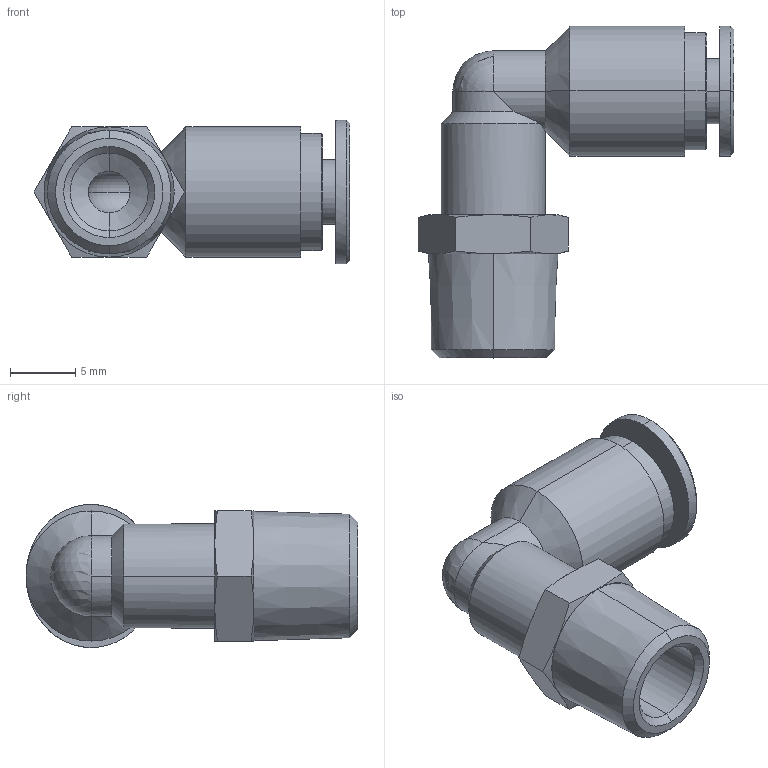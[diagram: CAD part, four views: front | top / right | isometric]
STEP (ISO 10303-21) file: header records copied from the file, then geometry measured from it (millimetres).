
FILE_DESCRIPTION (( 'STEP AP214' ), '1' );
FILE_NAME ('APL4-01.STEP', '2019-11-22T02:21:37', ( '微软用户' ), ( '微软中国' ), 'SwSTEP 2.0', 'SolidWorks 2016', '' );
FILE_SCHEMA (( 'AUTOMOTIVE_DESIGN' ));
Length unit declared in the file: millimetre
Products named in the file (1): APL4-01
Bounding box: 24.27 x 25.5 x 11 mm (x, y, z)
Volume: 1870 mm3; surface area: 1852.3 mm2
Topology: 1 solids, 1 shells, 67 faces, 148 edges, 87 vertices
Faces by surface type: cone 25, cylinder 21, plane 14, bspline 4, torus 2, sphere 1
Entity records: 3280 total; most frequent: CARTESIAN_POINT 1822, DIRECTION 303, ORIENTED_EDGE 292, EDGE_CURVE 146, AXIS2_PLACEMENT_3D 132, VERTEX_POINT 87, EDGE_LOOP 75, CIRCLE 68
